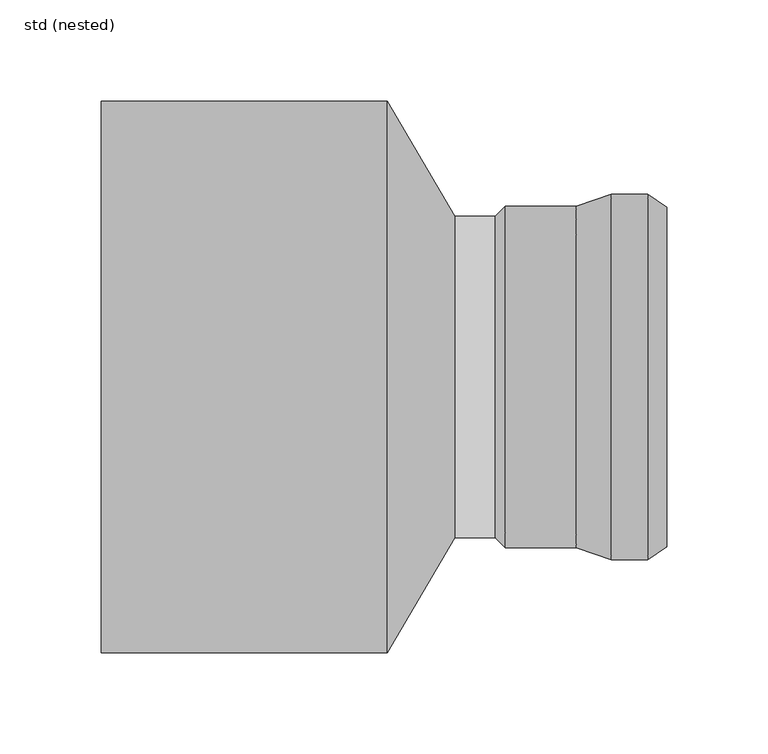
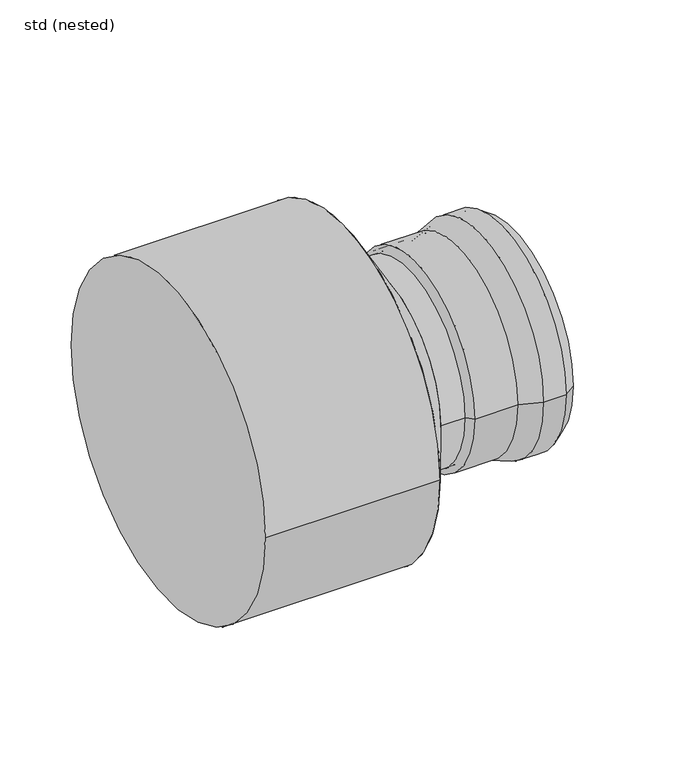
"""IFC4 building model written with IfcOpenShell, lengths in millimetres: pipe fitting geometry, ZZZ_do not use_PIF_ST_UN_GM-X transition element_ACO : std (nested)."""

from ifc_helpers import new_model, si_unit, point, frame, origin, origin_2d, place, context, project, spatial, polyline, circle_curve, trimmed, segment, composite_curve, outline, extrude, source, transform, mapped, element, save
from ifc_brep_helpers import plane_surface, cylinder_surface, revolved_surface, advanced_brep


def std_nested_c9cabba8(model_context):
    return source(origin(), model_context, "Body", "SolidModel", [
        advanced_brep(
        [(152.5, -90.5, 0.0), (152.5, 90.5, 0.0), (170.5, 90.5, 0.0), (170.5, -90.5, 0.0), (135.0, -84.5, 0.0), (135.0, 84.5, 0.0), (180.0, 84.0, 0.0), (180.0, -84.0, 0.0), (100.0, -84.5, 0.0), (100.0, 84.5, 0.0), (95.0, -79.5, 0.0), (95.0, 79.5, 0.0), (100.0, -79.5, 0.0), (100.0, 79.5, 0.0), (135.4166667, -82.0, 0.0), (135.4166667, 82.0, 0.0), (100.0, 82.0, 0.0), (100.0, -82.0, 0.0), (152.9166667, -88.0, 0.0), (152.9166667, 88.0, 0.0), (169.7265906, -88.0, 0.0), (169.7265906, 88.0, 0.0), (178.5882902, -81.9367318, 0.0), (178.5882902, 81.9367318, 0.0)],
        [
            (0, 1, circle_curve(frame((152.5, 0.0, 0.0), z_axis=(1.0, 0.0, 0.0), x_axis=(0.0, 1.0, 0.0)), 90.5)),
            (1, 2),
            (2, 3, circle_curve(frame((170.5, 0.0, 0.0), z_axis=(-1.0, 0.0, 0.0), x_axis=(0.0, 1.0, 0.0)), 90.5)),
            (3, 0),
            (1, 0, circle_curve(frame((152.5, 0.0, 0.0), z_axis=(1.0, 0.0, 0.0), x_axis=(0.0, 1.0, 0.0)), 90.5)),
            (3, 2, circle_curve(frame((170.5, 0.0, 0.0), z_axis=(-1.0, 0.0, 0.0), x_axis=(0.0, 1.0, 0.0)), 90.5)),
            (4, 5, circle_curve(frame((135.0, 0.0, 0.0), z_axis=(1.0, 0.0, 0.0), x_axis=(0.0, 1.0, 0.0)), 84.5)),
            (5, 1),
            (0, 4),
            (5, 4, circle_curve(frame((135.0, 0.0, 0.0), z_axis=(1.0, 0.0, 0.0), x_axis=(0.0, 1.0, 0.0)), 84.5)),
            (2, 6),
            (6, 7, circle_curve(frame((180.0, 0.0, 0.0), z_axis=(-1.0, 0.0, 0.0), x_axis=(0.0, 1.0, 0.0)), 84.0)),
            (7, 3),
            (7, 6, circle_curve(frame((180.0, 0.0, 0.0), z_axis=(-1.0, 0.0, 0.0), x_axis=(0.0, 1.0, 0.0)), 84.0)),
            (8, 9, circle_curve(frame((100.0, 0.0, 0.0), z_axis=(1.0, 0.0, 0.0), x_axis=(0.0, 1.0, 0.0)), 84.5)),
            (9, 5),
            (4, 8),
            (9, 8, circle_curve(frame((100.0, 0.0, 0.0), z_axis=(1.0, 0.0, 0.0), x_axis=(0.0, 1.0, 0.0)), 84.5)),
            (10, 11, circle_curve(frame((95.0, 0.0, 0.0), z_axis=(1.0, 0.0, 0.0), x_axis=(0.0, 1.0, 0.0)), 79.5)),
            (11, 9),
            (8, 10),
            (11, 10, circle_curve(frame((95.0, 0.0, 0.0), z_axis=(1.0, 0.0, 0.0), x_axis=(0.0, 1.0, 0.0)), 79.5)),
            (12, 13, circle_curve(frame((100.0, 0.0, 0.0), z_axis=(1.0, 0.0, 0.0), x_axis=(0.0, 1.0, 0.0)), 79.5)),
            (13, 11),
            (10, 12),
            (13, 12, circle_curve(frame((100.0, 0.0, 0.0), z_axis=(1.0, 0.0, 0.0), x_axis=(0.0, 1.0, 0.0)), 79.5)),
            (14, 15, circle_curve(frame((135.4166667, 0.0, 0.0), z_axis=(1.0, 0.0, 0.0), x_axis=(0.0, 1.0, 0.0)), 82.0)),
            (15, 16),
            (16, 17, circle_curve(frame((100.0, 0.0, 0.0), z_axis=(-1.0, 0.0, 0.0), x_axis=(0.0, 1.0, 0.0)), 82.0)),
            (17, 14),
            (15, 14, circle_curve(frame((135.4166667, 0.0, 0.0), z_axis=(1.0, 0.0, 0.0), x_axis=(0.0, 1.0, 0.0)), 82.0)),
            (17, 16, circle_curve(frame((100.0, 0.0, 0.0), z_axis=(-1.0, 0.0, 0.0), x_axis=(0.0, 1.0, 0.0)), 82.0)),
            (18, 19, circle_curve(frame((152.9166667, 0.0, 0.0), z_axis=(1.0, 0.0, 0.0), x_axis=(0.0, 1.0, 0.0)), 88.0)),
            (19, 15),
            (14, 18),
            (19, 18, circle_curve(frame((152.9166667, 0.0, 0.0), z_axis=(1.0, 0.0, 0.0), x_axis=(0.0, 1.0, 0.0)), 88.0)),
            (20, 21, circle_curve(frame((169.7265906, 0.0, 0.0), z_axis=(1.0, 0.0, 0.0), x_axis=(0.0, 1.0, 0.0)), 88.0)),
            (21, 19),
            (18, 20),
            (21, 20, circle_curve(frame((169.7265906, 0.0, 0.0), z_axis=(1.0, 0.0, 0.0), x_axis=(0.0, 1.0, 0.0)), 88.0)),
            (22, 23, circle_curve(frame((178.5882902, 0.0, 0.0), z_axis=(1.0, 0.0, 0.0), x_axis=(0.0, 1.0, 0.0)), 81.9367318)),
            (23, 21),
            (20, 22),
            (23, 22, circle_curve(frame((178.5882902, 0.0, 0.0), z_axis=(1.0, 0.0, 0.0), x_axis=(0.0, 1.0, 0.0)), 81.9367318)),
            (6, 23),
            (22, 7),
            (16, 13),
            (12, 17),
        ],
        [
            cylinder_surface(frame((176.6444117, 0.0, 0.0), z_axis=(-1.0, 0.0, 0.0), x_axis=(0.0, 1.0, 0.0)), 90.5),
            revolved_surface(polyline([(152.5, 90.5, 0.0), (135.0, 84.5, 0.0)]), (176.6444117, 0.0, 0.0), (-1.0, 0.0, 0.0)),
            revolved_surface(polyline([(180.0, 84.0, 0.0), (170.5, 90.5, 0.0)]), (176.6444117, 0.0, 0.0), (-1.0, 0.0, 0.0)),
            cylinder_surface(frame((176.6444117, 0.0, 0.0), z_axis=(-1.0, 0.0, 0.0), x_axis=(0.0, 1.0, 0.0)), 84.5),
            revolved_surface(polyline([(100.0, 84.5, 0.0), (95.0, 79.5, 0.0)]), (176.6444117, 0.0, 0.0), (-1.0, 0.0, 0.0)),
            revolved_surface(polyline([(95.0, 79.5, 0.0), (100.0, 79.5, 0.0)]), (176.6444117, 0.0, 0.0), (-1.0, 0.0, 0.0)),
            revolved_surface(polyline([(100.0, 82.0, 0.0), (135.4166667, 82.0, 0.0)]), (176.6444117, 0.0, 0.0), (-1.0, 0.0, 0.0)),
            revolved_surface(polyline([(135.4166667, 82.0, 0.0), (152.9166667, 88.0, 0.0)]), (176.6444117, 0.0, 0.0), (-1.0, 0.0, 0.0)),
            revolved_surface(polyline([(152.9166667, 88.0, 0.0), (169.7265906, 88.0, 0.0)]), (176.6444117, 0.0, 0.0), (-1.0, 0.0, 0.0)),
            revolved_surface(polyline([(169.7265906, 88.0, 0.0), (178.5882902, 81.9367318, 0.0)]), (176.6444117, 0.0, 0.0), (-1.0, 0.0, 0.0)),
            revolved_surface(polyline([(178.5882902, 81.9367318, 0.0), (180.0, 84.0, 0.0)]), (176.6444117, 0.0, 0.0), (-1.0, 0.0, 0.0)),
            plane_surface(frame((100.0, 0.0, 0.0), z_axis=(1.0, 0.0, 0.0), x_axis=(0.0, 1.0, 0.0))),
        ],
        [
            (0, [[1, 2, 3, 4]]),
            (0, [[5, -4, 6, -2]]),
            (1, [[7, 8, -1, 9]]),
            (1, [[10, -9, -5, -8]]),
            (2, [[-3, 11, 12, 13]]),
            (2, [[-6, -13, 14, -11]]),
            (3, [[15, 16, -7, 17]]),
            (3, [[18, -17, -10, -16]]),
            (4, [[19, 20, -15, 21]]),
            (4, [[22, -21, -18, -20]]),
            (5, [[23, 24, -19, 25]]),
            (5, [[26, -25, -22, -24]]),
            (6, [[27, 28, 29, 30]]),
            (6, [[31, -30, 32, -28]]),
            (7, [[33, 34, -27, 35]]),
            (7, [[36, -35, -31, -34]]),
            (8, [[37, 38, -33, 39]]),
            (8, [[40, -39, -36, -38]]),
            (9, [[41, 42, -37, 43]]),
            (9, [[44, -43, -40, -42]]),
            (10, [[-12, 45, -41, 46]]),
            (10, [[-14, -46, -44, -45]]),
            (11, [[-29, 47, -23, 48]]),
            (11, [[-32, -48, -26, -47]]),
        ],
    ),
        advanced_brep(
        [(75.0, -79.5, 0.0), (75.0, 79.5, 0.0), (41.6666667, -136.5, 0.0), (41.6666667, 136.5, 0.0)],
        [
            (0, 1, circle_curve(frame((75.0, 0.0, 0.0), z_axis=(1.0, 0.0, 0.0), x_axis=(0.0, -1.0, 0.0)), 79.5)),
            (1, 0, circle_curve(frame((75.0, 0.0, 0.0), z_axis=(1.0, 0.0, 0.0), x_axis=(0.0, 1.0, 0.0)), 79.5)),
            (2, 3, circle_curve(frame((41.6666667, 0.0, 0.0), z_axis=(-1.0, 0.0, 0.0), x_axis=(0.0, 1.0, 0.0)), 136.5)),
            (3, 2, circle_curve(frame((41.6666667, 0.0, 0.0), z_axis=(-1.0, 0.0, 0.0), x_axis=(0.0, -1.0, 0.0)), 136.5)),
            (3, 1),
            (0, 2),
        ],
        [
            plane_surface(frame((75.0, 0.0, 0.0), z_axis=(1.0, 0.0, 0.0), x_axis=(0.0, 0.0, -1.0))),
            plane_surface(frame((41.6666667, 0.0, 0.0), z_axis=(-1.0, 0.0, 0.0), x_axis=(0.0, 0.0, -1.0))),
            revolved_surface(polyline([(75.0, -79.50000005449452, 0.0), (41.66666670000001, -136.5, 0.0)]), (121.4912281, 0.0, 0.0), (-1.0, 0.0, 0.0)),
            revolved_surface(polyline([(75.0, 79.50000005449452, 0.0), (41.66666670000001, 136.5, 0.0)]), (121.4912281, 0.0, 0.0), (-1.0, 0.0, 0.0)),
        ],
        [
            (0, [[1, 2]]),
            (1, [[3, 4]]),
            (2, [[-4, 5, -1, 6]]),
            (3, [[-3, -6, -2, -5]]),
        ],
    ),
        extrude(outline(composite_curve([segment(trimmed(circle_curve(origin_2d(), 79.5), [point((79.5, 0.0))], [point((-79.5, 0.0))], False, "CARTESIAN"), True, "CONTINUOUS"), segment(trimmed(circle_curve(origin_2d(), 79.5), [point((-79.5, 0.0))], [point((79.5, 0.0))], False, "CARTESIAN"), True, "CONTINUOUS")], self_intersect=False)), frame((75.0, 0.0, 0.0), z_axis=(1.0, 0.0, 0.0), x_axis=(0.0, 1.0, 0.0)), (0.0, 0.0, 1.0), 25.0),
        extrude(outline(composite_curve([segment(trimmed(circle_curve(origin_2d(), 136.5), [point((-136.5, 0.0))], [point((136.5, 0.0))], False, "CARTESIAN"), True, "CONTINUOUS"), segment(trimmed(circle_curve(origin_2d(), 136.5), [point((136.5, 0.0))], [point((-136.5, 0.0))], False, "CARTESIAN"), True, "CONTINUOUS")], self_intersect=False)), frame((-100.0, 0.0, 0.0), z_axis=(1.0, 0.0, 0.0), x_axis=(0.0, 1.0, 0.0)), (0.0, 0.0, 1.0), 141.6666667),
    ])


if __name__ == "__main__":
    model = new_model("IFC4")
    model_context = context("Model", 3, world=origin())
    ifc_project = project(units=[si_unit("LENGTHUNIT", "METRE", prefix="MILLI")], contexts=[model_context])
    site = spatial("IfcSite", under=ifc_project)
    building = spatial("IfcBuilding", under=site)
    placement = place(None, origin())
    std_nested_shape = std_nested_c9cabba8(model_context)
    element("IfcPipeFitting", 1, ObjectType="ZZZ_do not use_PIF_ST_UN_GM-X transition element_ACO : std (nested)", at=placement, inside=building, context=model_context, shape_type="MappedRepresentation", body=[
        mapped(std_nested_shape, transform((0.0, 0.0, 0.0), x_axis=(1.0, 0.0, 0.0), y_axis=(0.0, 1.0, 0.0), z_axis=(0.0, 0.0, 1.0))),
    ])
    save(model, "model.ifc")
